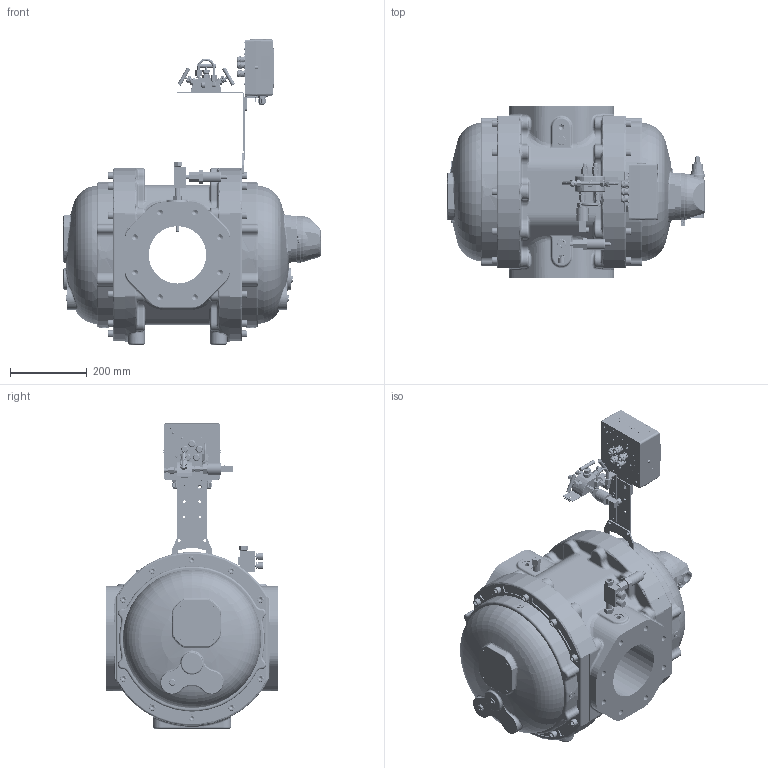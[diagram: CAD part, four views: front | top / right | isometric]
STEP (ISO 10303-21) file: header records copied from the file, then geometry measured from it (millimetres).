
FILE_DESCRIPTION(('STEP AP242'), '1');
FILE_NAME('ÝÐ-245-G400-150 áåç èñòîðèè', '', ('UNSPECIFIED'), ('UNSPECIFIED'), 'C3D Converter', 'C3D Toolkit', '');
FILE_SCHEMA(('AP242_MANAGED_MODEL_BASED_3D_ENGINEERING_MIM_LF { 1 0 10303 442 1 1 4 }'));
Length unit declared in the file: millimetre
Bounding box: 675 x 450 x 798.54 mm (x, y, z)
Volume: 65762291.9 mm3; surface area: 2721861.2 mm2
Topology: 173 solids, 174 shells, 34184 faces, 92466 edges, 60950 vertices
Faces by surface type: plane 15648, extrusion 11492, cylinder 4716, bspline 881, cone 794, torus 576, sphere 77
Full cylindrical faces by diameter (mm): 1.5 x1, 1.95 x3, 2 x12, 2.459 x22, 2.5 x4, 2.791 x2, 2.9 x4, 3 x30, 3.2 x13, 3.242 x8, 3.3 x6, 3.45 x7, 3.5 x16, 4 x18, 4.1 x8, 4.134 x1, 4.2 x12, 4.4 x1, 4.917 x13, 5 x26, 5.2 x4, 5.5 x20, 5.6 x20, 6 x15, 6.2 x2, 6.4 x6, 6.5 x8, 7 x18, 8 x22, 8.5 x7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
Entity records: 1477924 total; most frequent: CARTESIAN_POINT 421309, ORIENTED_EDGE 181536, DIRECTION 130792, EDGE_CURVE 90768, VECTOR 63786, VERTEX_POINT 60855, LINE 52294, EDGE_LOOP 38505
